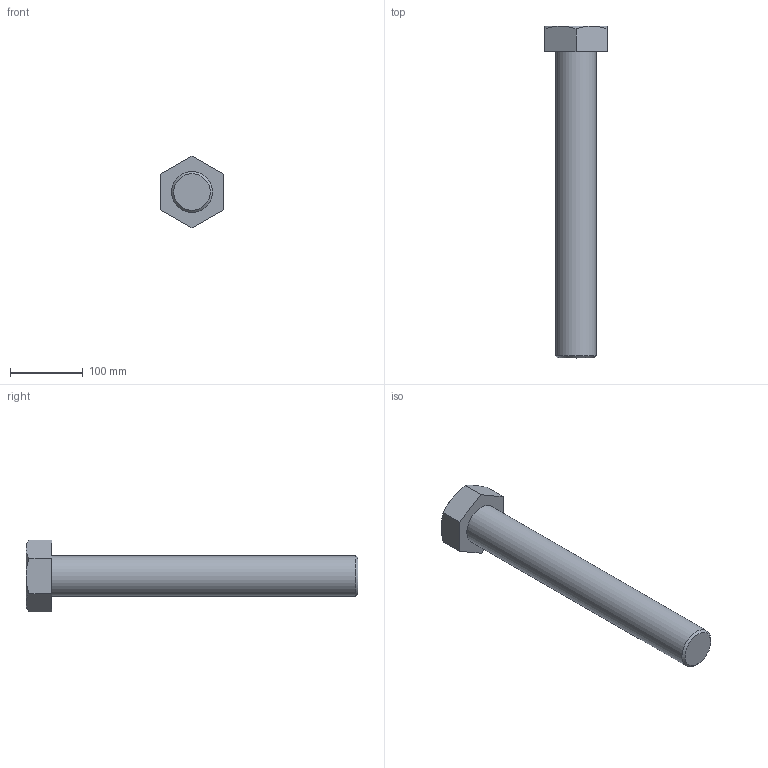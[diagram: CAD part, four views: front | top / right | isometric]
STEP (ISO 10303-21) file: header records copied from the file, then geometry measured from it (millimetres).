
FILE_DESCRIPTION(/* description */ (''),/* implementation_level */ '2;1');
FILE_NAME(/* name */ 'C:\Users\unitec\Documents\Inventor\各種小物\JIS\JIS B 1180 六角ボルト 等級C\hbc56\M56x420.stp',/* time_stamp */ '2015-02-13T15:00:18+09:00',/* author */ ('unitec'),/* organization */ (''),/* preprocessor_version */ 'ST-DEVELOPER v15.2',/* originating_system */ 'Autodesk Inventor 2014',/* authorisation */ '');
FILE_SCHEMA (('AUTOMOTIVE_DESIGN { 1 0 10303 214 3 1 1 }'));
Length unit declared in the file: millimetre
Products named in the file (1): M56x420
Bounding box: 85 x 455 x 98.15 mm (x, y, z)
Volume: 1251994.4 mm3; surface area: 96088.1 mm2
Topology: 1 solids, 1 shells, 17 faces, 35 edges, 21 vertices
Faces by surface type: plane 9, cone 7, cylinder 1
Full cylindrical faces by diameter (mm): 56 x1
Entity records: 441 total; most frequent: CARTESIAN_POINT 96, ORIENTED_EDGE 66, DIRECTION 66, EDGE_CURVE 33, AXIS2_PLACEMENT_3D 27, VERTEX_POINT 21, EDGE_LOOP 20, ADVANCED_FACE 17
